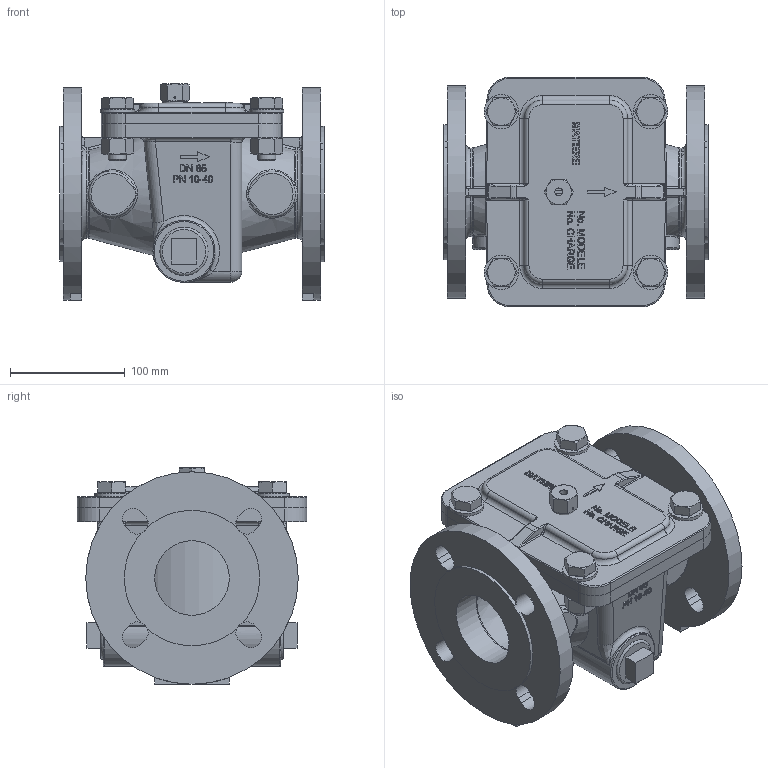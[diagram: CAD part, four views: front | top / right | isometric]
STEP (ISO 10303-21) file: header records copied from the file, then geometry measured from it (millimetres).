
FILE_DESCRIPTION(/* description */ (''),/* implementation_level */ '2;1');
FILE_NAME(/* name */ 'G:\Doc_Liberes\SymbolesCAD\Modeles_3D\FichierSTP\Aqua\Aqua90501\FAB065.stp',/* time_stamp */ '2019-09-03T15:03:46+02:00',/* author */ ('leonardo'),/* organization */ (''),/* preprocessor_version */ 'ST-DEVELOPER v18',/* originating_system */ 'Autodesk Inventor 2020',/* authorisation */ '');
FILE_SCHEMA (('AUTOMOTIVE_DESIGN { 1 0 10303 214 3 1 1 }'));
Length unit declared in the file: millimetre
Products named in the file (14): *CFA90501G10652-KCO; 57971; 57972; 57973; 57973Prot; 57973Tami; BGT7001; ISO 4017 - M16 x 45; ISO 7089 - 16 - 140 HV; ISO 4032 - M16; 57576-02; 57576-07; 57507; 57988-16
Assembly tree (23 placements, depth 3):
  *CFA90501G10652-KCO
    57971
    57972
    57973
      57973Prot
      57973Tami
    BGT7001  x2
    ISO 4017 - M16 x 45  x4
    ISO 7089 - 16 - 140 HV  x4
    ISO 4032 - M16  x4
    57576-02
      57576-07
      57507
    57988-16
Bounding box: 230 x 200 x 188.5 mm (x, y, z)
Volume: 2077486.9 mm3; surface area: 522914.4 mm2
Topology: 21 solids, 21 shells, 1552 faces, 4037 edges, 2602 vertices
Faces by surface type: plane 848, bspline 275, cylinder 269, torus 89, cone 67, sphere 4
Full cylindrical faces by diameter (mm): 1.6 x1, 2.3 x1, 6.5 x1, 6.92 x1, 8 x1, 13.835 x4, 14 x1, 16 x4, 17 x4, 18 x8, 18.63 x1, 20.955 x1, 22.49 x4, 30 x4, 32 x2, 39.84 x2, 42 x2, 54 x1, 65 x2, 185 x2
Entity records: 48989 total; most frequent: CARTESIAN_POINT 14304, ORIENTED_EDGE 7514, DIRECTION 6324, EDGE_CURVE 3757, VERTEX_POINT 2428, LINE 2372, VECTOR 2372, AXIS2_PLACEMENT_3D 1976
